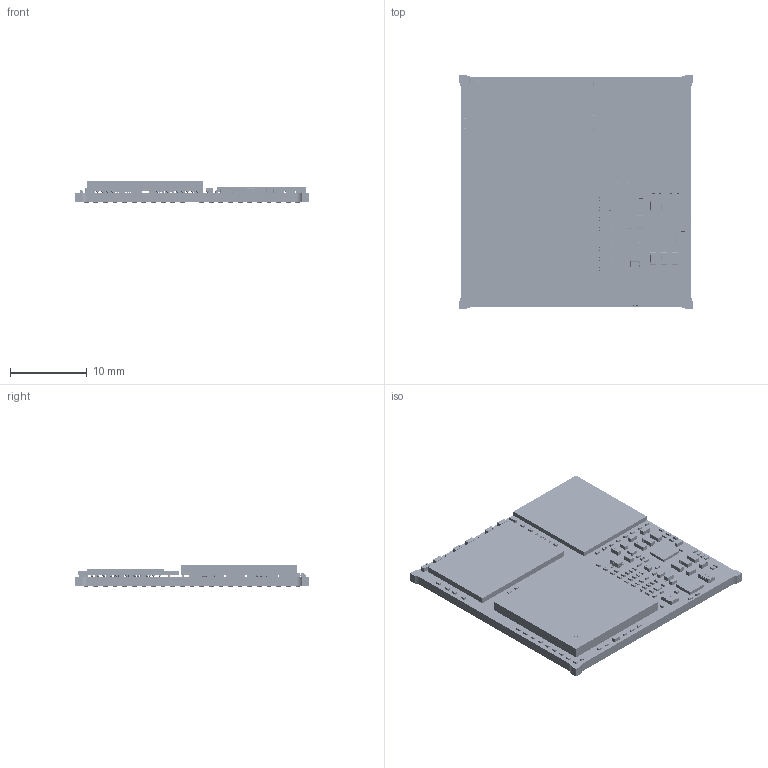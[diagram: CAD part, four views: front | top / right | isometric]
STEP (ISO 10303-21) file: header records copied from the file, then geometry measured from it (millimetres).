
FILE_DESCRIPTION(('STEP AP214'),'1');
FILE_NAME('OSM-SF-8ULP_REV100_reduced.step','2024-03-27T11:31:05',(' '),(' '),'Spatial InterOp 3D',' ',' ');
FILE_SCHEMA(('AUTOMOTIVE_DESIGN { 1 0 10303 214 1 1 1 1 }'));
Length unit declared in the file: metre
Products named in the file (257): PADS_TOP; RECT_6000X60001; RECT_5000X50001; RECT_7500X25001; RECTCHAM_22000.000000_13000.000000_2500.000000_00101; RECT_14000X70001; RECT_8500X75001; RECT_8000X80001; RECT_3000X30001; RECT_7000X70001; TOP; SHAPES_TOP; SHAPE_223; SHAPE_224; SHAPE_225; SHAPE_226; EXTERNAL COPPER; PADS_BOTTOM; CIRCLE_800012; BOTTOM; SHAPES_BOTTOM; SHAPE_137; SHAPE_138; SHAPE_139; SHAPE_140; OSM-SF-8ULP_REV100_reduced; fs_wlcsp4_0p4_0p77x0p77; Body; Pins; FS_WLCSP4_0P4_0P8X0P8; COMPONENTS; SOT416P100X140X80-3; Component1; Component2; Component3; Component4; FS_SOT416; FS_L0402; _3f__3f__3f__3f__3f__3f__3f__3f__3f__3f_2; fs_dfn2626-10_2p6x2p62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
Assembly tree (955 placements, depth 6):
  OSM-SF-8ULP_REV100_reduced
    EXTERNAL COPPER
      TOP
        PADS_TOP
          RECT_6000X60001  x5
          RECT_5000X50001  x14
          RECT_7500X25001  x10
          RECTCHAM_22000.000000_13000.000000_2500.000000_00101
          RECT_14000X70001  x2
          RECT_8500X75001  x4
          RECT_8000X80001  x12
          RECT_3000X30001  x190
          RECT_7000X70001  x24
        SHAPES_TOP
          SHAPE_223
          SHAPE_224
          SHAPE_225
          SHAPE_226
      BOTTOM
        PADS_BOTTOM
          CIRCLE_800012  x332
        SHAPES_BOTTOM
          SHAPE_137
          SHAPE_138
          SHAPE_139
          SHAPE_140
    COMPONENTS
      FS_WLCSP4_0P4_0P8X0P8
        fs_wlcsp4_0p4_0p77x0p77
          Body
          Pins
      FS_SOT416
        SOT416P100X140X80-3
          Component1
          Component2
          Component3
          Component4
      FS_L0402
        _3f__3f__3f__3f__3f__3f__3f__3f__3f__3f_2
      FS_DFN2626-10_2P6X2P6
        fs_dfn2626-10_2p6x2p62
          Body-0
          ThermalPin
          PinsArrayLR
      FS_XTAL_2-2P05X1P2
        IQXC-25
          Body-1
          Pins-2
          Cover
      FS_XTAL_4-2X1P6
        IQXC-42
          Body-3
          Pins-4
          Cover-5
      FS_C0603
        _3f__3f__3f__3f__3f__3f__3f__3f__3f__3f_2-6
      FS_C0603-1
        _3f__3f__3f__3f__3f__3f__3f__3f__3f__3f_2-6
      FS_SOD523
        fs_sod5232
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Bounding box: 30.5 x 30.5 x 2.83 mm (x, y, z)
Volume: 1626.9 mm3; surface area: 4058.7 mm2
Topology: 554 solids, 1159 shells, 8374 faces, 20561 edges, 12445 vertices
Faces by surface type: plane 4721, sphere 1822, cylinder 1809, bspline 22
Entity records: 126517 total; most frequent: DIRECTION 15665, CARTESIAN_POINT 13266, ORIENTED_EDGE 10042, STYLED_ITEM 7402, PRESENTATION_STYLE_ASSIGNMENT 7402, COLOUR_RGB 7402, AXIS2_PLACEMENT_3D 6888, EDGE_CURVE 5126
